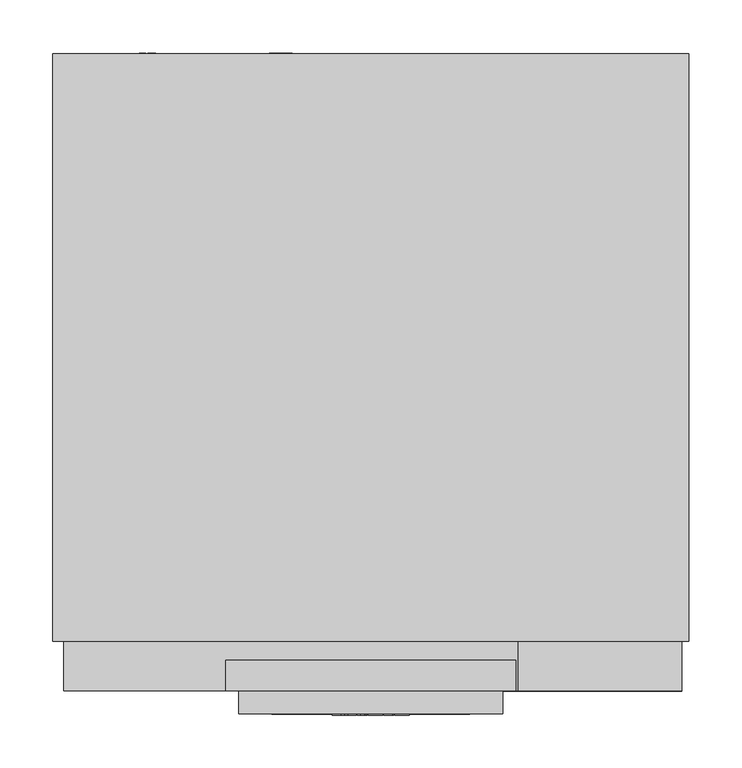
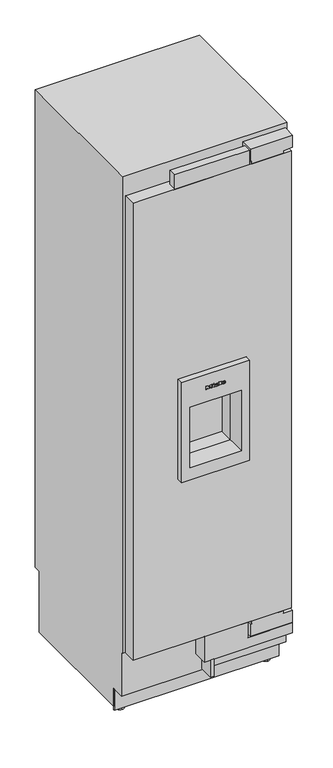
"""IFC4 building model written with IfcOpenShell, lengths in millimetres: proxy geometry, 11503540_USA_F2662Vi : 37266201_USA_11503540_F2662Vi."""

from ifc_helpers import new_model, si_unit, point, frame, frame_2d, origin, place, context, project, spatial, polyline, circle_curve, ellipse_curve, trimmed, segment, composite_curve, outline, extrude, faceted_brep, source, transform, mapped, element, save
from ifc_brep_helpers import plane_surface, cylinder_surface, revolved_surface, extruded_surface, advanced_brep


def specialty_equipment_8d51bce9(model_context):
    return source(origin(), model_context, "Body", "SolidModel", [
        extrude(outline(polyline([(-6.5, 54.0), (6.5, 54.0), (6.5, 0.0), (-6.5, 0.0), (-6.5, 54.0)])), frame((0.0, 0.0, 99.0), z_axis=(0.0, 0.0, 1.0), x_axis=(1.0, 0.0, 0.0)), (0.0, 0.0, 1.0), 67.0),
        faceted_brep([(125.0, -21.7, 1295.0), (-125.0, -21.7, 1295.0), (-125.0, -21.7, 908.0), (125.0, -21.7, 908.0), (94.0, -21.7, 1190.0), (94.0, -21.7, 956.0), (-94.0, -21.7, 956.0), (-94.0, -21.7, 1190.0), (125.0, 47.0, 1295.0), (125.0, 47.0, 908.0), (-125.0, 47.0, 908.0), (-125.0, 47.0, 1295.0), (94.0, 47.0, 1190.0), (-94.0, 47.0, 1190.0), (-94.0, 47.0, 956.0), (94.0, 47.0, 956.0), (-94.0, -11.7943775, 1190.0), (94.0, -11.7943775, 1190.0), (-94.0, -11.7943775, 956.0), (94.0, -11.7943775, 956.0)], [[[0, 1, 2, 3], [4, 5, 6, 7]], [[8, 9, 10, 11], [12, 13, 14, 15]], [[0, 3, 9, 8]], [[3, 2, 10, 9]], [[2, 1, 11, 10]], [[1, 0, 8, 11]], [[4, 7, 16, 13, 12, 17]], [[7, 6, 18, 14, 13, 16]], [[6, 5, 19, 15, 14, 18]], [[5, 4, 17, 12, 15, 19]]]),
        extrude(outline(polyline([(2036.0, 291.0), (2036.0, -291.0), (265.0, -291.0), (265.0, 291.0), (2036.0, 291.0)]), holes=[polyline([(1295.0, 125.0), (908.0, 125.0), (908.0, -125.0), (1295.0, -125.0), (1295.0, 125.0)])]), frame((0.0, 0.0, 0.0), z_axis=(0.0, 1.0, 0.0), x_axis=(0.0, 0.0, 1.0)), (0.0, 0.0, 1.0), 47.0),
        faceted_brep([(-158.0, 47.0, 863.0), (-158.0, 47.0, 1335.0), (-158.0, 239.0, 1335.0), (-158.0, 239.0, 987.0), (-158.0, 140.0, 863.0), (158.0, 47.0, 863.0), (158.0, 140.0, 863.0), (158.0, 239.0, 987.0), (158.0, 239.0, 1335.0), (158.0, 47.0, 1335.0), (94.0, 47.0, 1190.0), (94.0, 47.0, 956.0), (-94.0, 47.0, 956.0), (-94.0, 47.0, 1190.0), (94.0, 100.0, 1190.0), (-94.0, 100.0, 1190.0), (-94.0, 100.0, 956.0), (94.0, 100.0, 956.0)], [[[0, 1, 2, 3, 4]], [[5, 6, 7, 8, 9]], [[0, 4, 6, 5]], [[4, 3, 7, 6]], [[3, 2, 8, 7]], [[2, 1, 9, 8]], [[1, 0, 5, 9], [10, 11, 12, 13]], [[14, 15, 16, 17]], [[14, 17, 11, 10]], [[17, 16, 12, 11]], [[16, 15, 13, 12]], [[15, 14, 10, 13]]]),
        extrude(outline(polyline([(-137.5, 29.0), (137.5, 29.0), (137.5, 0.0), (-137.5, 0.0), (-137.5, 29.0)])), frame((0.0, 0.0, 2036.0), z_axis=(0.0, 0.0, 1.0), x_axis=(1.0, 0.0, 0.0)), (0.0, 0.0, 1.0), 56.0),
        advanced_brep(
        [(28.472, -22.7, 1241.344), (28.472, -22.7, 1242.556), (36.5, -22.7, 1242.556), (22.532, -22.7, 1242.556), (25.832, -22.7, 1238.5), (36.296, -22.7, 1241.344), (32.672, -22.7, 1241.344), (29.816, -22.7, 1240.0), (28.472, -22.7, 1244.092), (28.472, -22.7, 1245.4), (30.524, -22.7, 1245.4), (30.524, -22.7, 1244.092), (28.472, -21.7, 1241.344), (29.816, -21.7, 1240.0), (32.672, -21.7, 1241.344), (36.296, -21.7, 1241.344), (25.832, -21.7, 1238.5), (22.532, -21.7, 1242.556), (36.5, -21.7, 1242.556), (28.472, -21.7, 1242.556), (28.472, -21.7, 1244.092), (30.524, -21.7, 1244.092), (30.524, -21.7, 1245.4), (28.472, -21.7, 1245.4)],
        [
            (0, 1),
            (1, 2),
            (2, 3, ellipse_curve(frame((29.516, -22.7, 1242.556), z_axis=(0.0, -1.0, 0.0), x_axis=(-1.0, 0.0, 0.0)), 6.984, 5.772)),
            (3, 4, circle_curve(frame((27.1760655, -22.7, 1242.964), z_axis=(0.0, -1.0, 0.0), x_axis=(0.0, 0.0, -1.0)), 4.6619532)),
            (4, 5, circle_curve(frame((29.3761904, -22.7, 1246.132), z_axis=(0.0, -1.0, 0.0), x_axis=(0.0, 0.0, -1.0)), 8.4147911)),
            (5, 6),
            (6, 7, circle_curve(frame((30.4025882, -22.7, 1242.46), z_axis=(0.0, 1.0, 0.0), x_axis=(0.0, 0.0, -1.0)), 2.5289693)),
            (7, 0, circle_curve(frame((29.816, -22.7, 1241.344), z_axis=(0.0, 1.0, 0.0), x_axis=(0.0, 0.0, -1.0)), 1.344)),
            (8, 9),
            (9, 10, circle_curve(frame((29.498, -22.7, 1245.4), z_axis=(0.0, 1.0, 0.0), x_axis=(0.0, 0.0, -1.0)), 1.026)),
            (10, 11),
            (11, 8),
            (12, 13, circle_curve(frame((29.816, -21.7, 1241.344), z_axis=(0.0, -1.0, 0.0), x_axis=(0.0, 0.0, -1.0)), 1.344)),
            (13, 14, circle_curve(frame((30.4025882, -21.7, 1242.46), z_axis=(0.0, -1.0, 0.0), x_axis=(0.0, 0.0, -1.0)), 2.5289693)),
            (14, 15),
            (15, 16, circle_curve(frame((29.3761904, -21.7, 1246.132), z_axis=(0.0, 1.0, 0.0), x_axis=(0.0, 0.0, -1.0)), 8.4147911)),
            (16, 17, circle_curve(frame((27.1760655, -21.7, 1242.964), z_axis=(0.0, 1.0, 0.0), x_axis=(0.0, 0.0, -1.0)), 4.6619532)),
            (17, 18, ellipse_curve(frame((29.516, -21.7, 1242.556), z_axis=(0.0, 1.0, 0.0), x_axis=(-1.0, 0.0, 0.0)), 6.984, 5.772)),
            (18, 19),
            (19, 12),
            (20, 21),
            (21, 22),
            (22, 23, circle_curve(frame((29.498, -21.7, 1245.4), z_axis=(0.0, -1.0, 0.0), x_axis=(0.0, 0.0, -1.0)), 1.026)),
            (23, 20),
            (0, 12),
            (19, 1),
            (18, 2),
            (5, 15),
            (14, 6),
            (17, 3),
            (13, 7),
            (16, 4),
            (8, 20),
            (23, 9),
            (22, 10),
            (21, 11),
        ],
        [
            plane_surface(frame((28.472, -22.7, 1242.556), z_axis=(0.0, -1.0, 0.0), x_axis=(0.0, 0.0, 1.0))),
            plane_surface(frame((28.472, -21.7, 1242.556), z_axis=(0.0, 1.0, 0.0), x_axis=(0.0, 0.0, -1.0))),
            plane_surface(frame((28.472, -22.7, 1241.344), z_axis=(1.0, 0.0, 0.0), x_axis=(0.0, 1.0, 0.0))),
            plane_surface(frame((28.472, -22.7, 1242.556), z_axis=(0.0, 0.0, -1.0), x_axis=(0.0, 1.0, 0.0))),
            plane_surface(frame((36.296, -22.7, 1241.344), z_axis=(0.0, 0.0, 1.0), x_axis=(0.0, 1.0, 0.0))),
            extruded_surface(trimmed(ellipse_curve(frame((29.516, -20.7, 1242.556), z_axis=(0.0, -1.0, 0.0), x_axis=(-1.0, 0.0, 0.0)), 6.984, 5.772), [point((36.5, -20.7, 1242.556))], [point((22.532, -20.7, 1242.556))], True, "CARTESIAN"), (0.0, -1.0, 0.0), 1.0),
            revolved_surface(polyline([(30.4025882, -21.7, 1239.9310307), (30.4025882, -22.7, 1239.9310307)]), (30.4025882, -21.7, 1242.46), (0.0, 1.0, 0.0)),
            revolved_surface(polyline([(29.816, -21.7, 1240.0), (29.816, -22.7, 1240.0)]), (29.816, -21.7, 1241.344), (0.0, 1.0, 0.0)),
            cylinder_surface(frame((27.1760655, -21.7, 1242.964), z_axis=(0.0, -1.0, 0.0), x_axis=(0.0, 0.0, -1.0)), 4.6619532),
            cylinder_surface(frame((29.3761904, -21.7, 1246.132), z_axis=(0.0, -1.0, 0.0), x_axis=(0.0, 0.0, -1.0)), 8.4147911),
            plane_surface(frame((28.472, -22.7, 1244.092), z_axis=(1.0, 0.0, 0.0), x_axis=(0.0, 1.0, 0.0))),
            revolved_surface(polyline([(29.498, -21.7, 1244.374), (29.498, -22.7, 1244.374)]), (29.498, -21.7, 1245.4), (0.0, 1.0, 0.0)),
            plane_surface(frame((30.524, -22.7, 1245.4), z_axis=(-1.0, 0.0, 0.0), x_axis=(0.0, 1.0, 0.0))),
            plane_surface(frame((30.524, -22.7, 1244.092), z_axis=(0.0, 0.0, 1.0), x_axis=(0.0, 1.0, 0.0))),
        ],
        [
            (0, [[1, 2, 3, 4, 5, 6, 7, 8], [9, 10, 11, 12]]),
            (1, [[13, 14, 15, 16, 17, 18, 19, 20], [21, 22, 23, 24]]),
            (2, [[-1, 25, -20, 26]]),
            (3, [[-2, -26, -19, 27]]),
            (4, [[-6, 28, -15, 29]]),
            (5, [[-3, -27, -18, 30]]),
            (6, [[-7, -29, -14, 31]]),
            (7, [[-8, -31, -13, -25]]),
            (8, [[-4, -30, -17, 32]]),
            (9, [[-5, -32, -16, -28]]),
            (10, [[-9, 33, -24, 34]]),
            (11, [[-10, -34, -23, 35]]),
            (12, [[-11, -35, -22, 36]]),
            (13, [[-12, -36, -21, -33]]),
        ],
    ),
        advanced_brep(
        [(3.428, -22.7, 1241.344), (3.428, -22.7, 1242.556), (11.456, -22.7, 1242.556), (-2.512, -22.7, 1242.556), (0.788, -22.7, 1238.5), (11.252, -22.7, 1241.344), (7.628, -22.7, 1241.344), (4.772, -22.7, 1240.0), (3.428, -22.7, 1244.092), (3.428, -22.7, 1245.4), (5.48, -22.7, 1245.4), (5.48, -22.7, 1244.092), (3.428, -21.7, 1241.344), (4.772, -21.7, 1240.0), (7.628, -21.7, 1241.344), (11.252, -21.7, 1241.344), (0.788, -21.7, 1238.5), (-2.512, -21.7, 1242.556), (11.456, -21.7, 1242.556), (3.428, -21.7, 1242.556), (3.428, -21.7, 1244.092), (5.48, -21.7, 1244.092), (5.48, -21.7, 1245.4), (3.428, -21.7, 1245.4)],
        [
            (0, 1),
            (1, 2),
            (2, 3, ellipse_curve(frame((4.472, -22.7, 1242.556), z_axis=(0.0, -1.0, 0.0), x_axis=(-1.0, 0.0, 0.0)), 6.984, 5.772)),
            (3, 4, circle_curve(frame((2.1320655, -22.7, 1242.964), z_axis=(0.0, -1.0, 0.0), x_axis=(0.0, 0.0, -1.0)), 4.6619532)),
            (4, 5, circle_curve(frame((4.3321904, -22.7, 1246.132), z_axis=(0.0, -1.0, 0.0), x_axis=(0.0, 0.0, -1.0)), 8.4147911)),
            (5, 6),
            (6, 7, circle_curve(frame((5.3585882, -22.7, 1242.46), z_axis=(0.0, 1.0, 0.0), x_axis=(0.0, 0.0, -1.0)), 2.5289693)),
            (7, 0, circle_curve(frame((4.772, -22.7, 1241.344), z_axis=(0.0, 1.0, 0.0), x_axis=(0.0, 0.0, -1.0)), 1.344)),
            (8, 9),
            (9, 10, circle_curve(frame((4.454, -22.7, 1245.4), z_axis=(0.0, 1.0, 0.0), x_axis=(0.0, 0.0, -1.0)), 1.026)),
            (10, 11),
            (11, 8),
            (12, 13, circle_curve(frame((4.772, -21.7, 1241.344), z_axis=(0.0, -1.0, 0.0), x_axis=(0.0, 0.0, -1.0)), 1.344)),
            (13, 14, circle_curve(frame((5.3585882, -21.7, 1242.46), z_axis=(0.0, -1.0, 0.0), x_axis=(0.0, 0.0, -1.0)), 2.5289693)),
            (14, 15),
            (15, 16, circle_curve(frame((4.3321904, -21.7, 1246.132), z_axis=(0.0, 1.0, 0.0), x_axis=(0.0, 0.0, -1.0)), 8.4147911)),
            (16, 17, circle_curve(frame((2.1320655, -21.7, 1242.964), z_axis=(0.0, 1.0, 0.0), x_axis=(0.0, 0.0, -1.0)), 4.6619532)),
            (17, 18, ellipse_curve(frame((4.472, -21.7, 1242.556), z_axis=(0.0, 1.0, 0.0), x_axis=(-1.0, 0.0, 0.0)), 6.984, 5.772)),
            (18, 19),
            (19, 12),
            (20, 21),
            (21, 22),
            (22, 23, circle_curve(frame((4.454, -21.7, 1245.4), z_axis=(0.0, -1.0, 0.0), x_axis=(0.0, 0.0, -1.0)), 1.026)),
            (23, 20),
            (0, 12),
            (19, 1),
            (18, 2),
            (5, 15),
            (14, 6),
            (17, 3),
            (13, 7),
            (16, 4),
            (8, 20),
            (23, 9),
            (22, 10),
            (21, 11),
        ],
        [
            plane_surface(frame((3.428, -22.7, 1242.556), z_axis=(0.0, -1.0, 0.0), x_axis=(0.0, 0.0, 1.0))),
            plane_surface(frame((3.428, -21.7, 1242.556), z_axis=(0.0, 1.0, 0.0), x_axis=(0.0, 0.0, -1.0))),
            plane_surface(frame((3.428, -22.7, 1241.344), z_axis=(1.0, 0.0, 0.0), x_axis=(0.0, 1.0, 0.0))),
            plane_surface(frame((3.428, -22.7, 1242.556), z_axis=(0.0, 0.0, -1.0), x_axis=(0.0, 1.0, 0.0))),
            plane_surface(frame((11.252, -22.7, 1241.344), z_axis=(0.0, 0.0, 1.0), x_axis=(0.0, 1.0, 0.0))),
            extruded_surface(trimmed(ellipse_curve(frame((4.472, -20.7, 1242.556), z_axis=(0.0, -1.0, 0.0), x_axis=(-1.0, 0.0, 0.0)), 6.984, 5.772), [point((11.456, -20.7, 1242.556))], [point((-2.512, -20.7, 1242.556))], True, "CARTESIAN"), (0.0, -1.0, 0.0), 1.0),
            revolved_surface(polyline([(5.3585882, -21.7, 1239.9310307), (5.3585882, -22.7, 1239.9310307)]), (5.3585882, -21.7, 1242.46), (0.0, 1.0, 0.0)),
            revolved_surface(polyline([(4.772, -21.7, 1240.0), (4.772, -22.7, 1240.0)]), (4.772, -21.7, 1241.344), (0.0, 1.0, 0.0)),
            cylinder_surface(frame((2.1320655, -21.7, 1242.964), z_axis=(0.0, -1.0, 0.0), x_axis=(0.0, 0.0, -1.0)), 4.6619532),
            cylinder_surface(frame((4.3321904, -21.7, 1246.132), z_axis=(0.0, -1.0, 0.0), x_axis=(0.0, 0.0, -1.0)), 8.4147911),
            plane_surface(frame((3.428, -22.7, 1244.092), z_axis=(1.0, 0.0, 0.0), x_axis=(0.0, 1.0, 0.0))),
            revolved_surface(polyline([(4.454, -21.7, 1244.374), (4.454, -22.7, 1244.374)]), (4.454, -21.7, 1245.4), (0.0, 1.0, 0.0)),
            plane_surface(frame((5.48, -22.7, 1245.4), z_axis=(-1.0, 0.0, 0.0), x_axis=(0.0, 1.0, 0.0))),
            plane_surface(frame((5.48, -22.7, 1244.092), z_axis=(0.0, 0.0, 1.0), x_axis=(0.0, 1.0, 0.0))),
        ],
        [
            (0, [[1, 2, 3, 4, 5, 6, 7, 8], [9, 10, 11, 12]]),
            (1, [[13, 14, 15, 16, 17, 18, 19, 20], [21, 22, 23, 24]]),
            (2, [[-1, 25, -20, 26]]),
            (3, [[-2, -26, -19, 27]]),
            (4, [[-6, 28, -15, 29]]),
            (5, [[-3, -27, -18, 30]]),
            (6, [[-7, -29, -14, 31]]),
            (7, [[-8, -31, -13, -25]]),
            (8, [[-4, -30, -17, 32]]),
            (9, [[-5, -32, -16, -28]]),
            (10, [[-9, 33, -24, 34]]),
            (11, [[-10, -34, -23, 35]]),
            (12, [[-11, -35, -22, 36]]),
            (13, [[-12, -36, -21, -33]]),
        ],
    ),
        extrude(outline(polyline([(1249.792, -9.688), (1247.848, -8.776), (1249.744, -4.708), (1251.688, -5.608), (1249.792, -9.688)])), frame((0.0, -22.7, 0.0), z_axis=(0.0, 1.0, 0.0), x_axis=(0.0, 0.0, 1.0)), (0.0, 0.0, 1.0), 1.0),
        extrude(outline(polyline([(1247.584, -12.652), (1245.436, -12.652), (1245.436, -11.224), (1240.516, -11.224), (1240.516, -12.652), (1238.5, -12.652), (1238.5, -3.184), (1240.516, -3.184), (1240.516, -4.576), (1247.584, -4.576), (1247.584, -12.652)])), frame((0.0, -22.7, 0.0), z_axis=(0.0, 1.0, 0.0), x_axis=(0.0, 0.0, 1.0)), (0.0, 0.0, 1.0), 1.0),
        extrude(outline(polyline([(1248.544, 12.128), (1248.544, 13.568), (1240.516, 13.568), (1240.516, 12.128), (1238.5, 12.128), (1238.5, 21.86), (1240.516, 21.86), (1240.516, 20.384), (1250.5, 20.384), (1250.5, 12.128), (1248.544, 12.128)])), frame((0.0, -22.7, 0.0), z_axis=(0.0, 1.0, 0.0), x_axis=(0.0, 0.0, 1.0)), (0.0, 0.0, 1.0), 1.0),
        extrude(outline(polyline([(1248.544, -36.568), (1248.544, -35.116), (1240.516, -35.116), (1240.516, -36.568), (1238.5, -36.568), (1238.5, -31.288), (1240.516, -31.288), (1240.516, -32.728), (1245.5951247, -32.728), (1238.5, -27.364), (1245.8152223, -21.976), (1240.516, -21.976), (1240.516, -23.452), (1238.5, -23.452), (1238.5, -13.876), (1240.516, -13.876), (1240.516, -15.4), (1248.544, -15.4), (1248.544, -13.876), (1250.5, -13.876), (1250.5, -21.184), (1246.0, -24.688), (1250.5, -28.204), (1250.5, -36.568), (1248.544, -36.568)])), frame((0.0, -22.7, 0.0), z_axis=(0.0, 1.0, 0.0), x_axis=(0.0, 0.0, 1.0)), (0.0, 0.0, 1.0), 1.0),
        extrude(outline(polyline([(519.0, 1998.0), (519.0, 1799.0), (447.0526316, 1799.0), (422.0, 1867.0), (201.7448904, 1867.0), (157.0, 1939.0), (87.0, 1949.0), (87.0, 1998.0), (519.0, 1998.0)])), frame((-255.5, 0.0, 0.0), z_axis=(1.0, 0.0, 0.0), x_axis=(0.0, 1.0, 0.0)), (0.0, 0.0, 1.0), 511.0),
        extrude(outline(polyline([(196.9886114, 1875.0), (195.809433, 1875.0), (158.6921935, 1934.4), (159.8713719, 1934.4), (196.9886114, 1875.0)])), frame((-69.0, 0.0, 0.0), z_axis=(1.0, 0.0, 0.0), x_axis=(0.0, 1.0, 0.0)), (0.0, 0.0, 1.0), 138.0),
        extrude(outline(polyline([(46.0510837, -84.101717), (37.4134902, -86.1745179), (46.0453554, -88.6868463), (46.0453554, -90.5601414), (37.4089549, -93.0799633), (46.0493903, -95.1581876), (46.0493903, -96.4649805), (36.0005458, -93.7156324), (36.0005458, -92.372208), (44.8261022, -89.6342221), (35.9987467, -87.0620509), (35.9987287, -85.5451466), (46.0510837, -82.800191), (46.0510837, -84.101717)])), frame((0.0, 604.0, 0.0), z_axis=(0.0, 1.0, 0.0), x_axis=(0.0, 0.0, 1.0)), (0.0, 0.0, 1.0), 1.0),
        extrude(outline(polyline([(46.0485238, -75.7401503), (41.1363122, -75.7401503), (46.0468162, -80.884602), (46.0468162, -82.6328316), (41.9156889, -78.3260313), (36.000035, -82.8032231), (36.000035, -81.2795519), (41.0742849, -77.4391666), (39.4525334, -75.7395503), (35.9999292, -75.7395503), (35.9999292, -74.4795491), (46.0485238, -74.4795491), (46.0485238, -75.7401503)])), frame((0.0, 604.0, 0.0), z_axis=(0.0, 1.0, 0.0), x_axis=(0.0, 0.0, 1.0)), (0.0, 0.0, 1.0), 1.0),
        extrude(outline(composite_curve([segment(trimmed(circle_curve(frame_2d((41.0, -85.0)), 7.5), [point((33.5, -85.0))], [point((48.5, -85.0))], False, "CARTESIAN"), True, "CONTINUOUS"), segment(trimmed(circle_curve(frame_2d((41.0, -85.0)), 7.5), [point((48.5, -85.0))], [point((33.5, -85.0))], False, "CARTESIAN"), True, "CONTINUOUS")], self_intersect=False)), frame((0.0, 577.0, 0.0), z_axis=(0.0, 1.0, 0.0), x_axis=(0.0, 0.0, 1.0)), (0.0, 0.0, 1.0), 27.0),
        extrude(outline(polyline([(2095.0, 295.0), (2095.0, 140.0), (2047.0, 140.0), (2047.0, 146.0), (2036.5, 146.0), (2036.5, 261.0), (2047.0, 261.0), (2047.0, 295.0), (2095.0, 295.0)])), frame((0.0, 0.0, 0.0), z_axis=(0.0, 1.0, 0.0), x_axis=(0.0, 0.0, 1.0)), (0.0, 0.0, 1.0), 47.0),
        extrude(outline(polyline([(254.0, 140.0), (206.0, 140.0), (206.0, 295.0), (254.0, 295.0), (254.0, 261.0), (264.0, 261.0), (264.0, 146.0), (254.0, 146.0), (254.0, 140.0)])), frame((0.0, 0.0, 0.0), z_axis=(0.0, 1.0, 0.0), x_axis=(0.0, 0.0, 1.0)), (0.0, 0.0, 1.0), 54.0),
        extrude(outline(polyline([(166.0, -28.5), (166.0, 295.0), (205.0, 295.0), (205.0, 131.5), (265.0, 131.5), (265.0, -28.5), (166.0, -28.5)])), frame((0.0, 0.0, 0.0), z_axis=(0.0, 1.0, 0.0), x_axis=(0.0, 0.0, 1.0)), (0.0, 0.0, 1.0), 54.0),
        extrude(outline(polyline([(99.0373308, -211.2645771), (97.7615342, -211.2645771), (97.7615342, -205.3195541), (94.7968516, -205.3195541), (94.7968516, -210.969579), (93.5246295, -210.969579), (93.5246295, -205.3415693), (90.2570046, -205.3415693), (90.2570046, -211.4619689), (88.9546219, -211.4619689), (88.9546219, -204.0443524), (99.0373308, -204.0443524), (99.0373308, -211.2645771)])), frame((0.0, 604.0, 0.0), z_axis=(0.0, 1.0, 0.0), x_axis=(0.0, 0.0, 1.0)), (0.0, 0.0, 1.0), 1.0),
        extrude(outline(polyline([(99.0458, -214.5619704), (90.2663944, -214.5619704), (90.2663944, -219.6145879), (89.0134802, -219.6145879), (89.0134802, -213.3423809), (99.0458, -213.3423809), (99.0458, -214.5619704)])), frame((0.0, 604.0, 0.0), z_axis=(0.0, 1.0, 0.0), x_axis=(0.0, 0.0, 1.0)), (0.0, 0.0, 1.0), 1.0),
        extrude(outline(composite_curve([segment(trimmed(circle_curve(frame_2d((94.0, -211.5)), 7.5), [point((86.5, -211.5))], [point((101.5, -211.5))], False, "CARTESIAN"), True, "CONTINUOUS"), segment(trimmed(circle_curve(frame_2d((94.0, -211.5)), 7.5), [point((101.5, -211.5))], [point((86.5, -211.5))], False, "CARTESIAN"), True, "CONTINUOUS")], self_intersect=False)), frame((0.0, 577.0, 0.0), z_axis=(0.0, 1.0, 0.0), x_axis=(0.0, 0.0, 1.0)), (0.0, 0.0, 1.0), 27.0),
        extrude(outline(polyline([(-301.5, 104.0), (301.5, 104.0), (301.5, 99.0), (-301.5, 99.0), (-301.5, 104.0)])), frame((0.0, 0.0, 14.0), z_axis=(0.0, 0.0, 1.0), x_axis=(1.0, 0.0, 0.0)), (0.0, 0.0, 1.0), 83.0),
        advanced_brep(
        [(-267.5, 139.0, 0.0), (-267.5, 109.0, 0.0), (-267.5, 139.0, 7.0), (-267.5, 109.0, 7.0), (-267.5, 128.7, 7.0), (-267.5, 119.3, 7.0), (-267.5, 128.7, 28.0), (-267.5, 119.3, 28.0)],
        [
            (0, 1, circle_curve(frame((-267.5, 124.0, 0.0), z_axis=(0.0, 0.0, -1.0), x_axis=(1.0, 0.0, 0.0)), 15.0)),
            (1, 0, circle_curve(frame((-267.5, 124.0, 0.0), z_axis=(0.0, 0.0, -1.0), x_axis=(1.0, 0.0, 0.0)), 15.0)),
            (2, 3, circle_curve(frame((-267.5, 124.0, 7.0), z_axis=(0.0, 0.0, 1.0), x_axis=(1.0, 0.0, 0.0)), 15.0)),
            (3, 2, circle_curve(frame((-267.5, 124.0, 7.0), z_axis=(0.0, 0.0, 1.0), x_axis=(1.0, 0.0, 0.0)), 15.0)),
            (4, 5, circle_curve(frame((-267.5, 124.0, 7.0), z_axis=(0.0, 0.0, -1.0), x_axis=(0.0, -1.0, 0.0)), 4.7)),
            (5, 4, circle_curve(frame((-267.5, 124.0, 7.0), z_axis=(0.0, 0.0, -1.0), x_axis=(0.0, -1.0, 0.0)), 4.7)),
            (0, 2),
            (3, 1),
            (6, 7, circle_curve(frame((-267.5, 124.0, 28.0), z_axis=(0.0, 0.0, 1.0), x_axis=(0.0, -1.0, 0.0)), 4.7)),
            (7, 6, circle_curve(frame((-267.5, 124.0, 28.0), z_axis=(0.0, 0.0, 1.0), x_axis=(0.0, -1.0, 0.0)), 4.7)),
            (7, 5),
            (4, 6),
        ],
        [
            plane_surface(frame((-252.5, 124.0, 0.0), z_axis=(0.0, 0.0, -1.0), x_axis=(0.0, -1.0, 0.0))),
            plane_surface(frame((-252.5, 124.0, 7.0), z_axis=(0.0, 0.0, 1.0), x_axis=(0.0, 1.0, 0.0))),
            cylinder_surface(frame((-267.5, 124.0, 7.0), z_axis=(0.0, 0.0, -1.0), x_axis=(1.0, 0.0, 0.0)), 15.0),
            plane_surface(frame((-267.5, 119.3, 28.0), z_axis=(0.0, 0.0, 1.0), x_axis=(1.0, 0.0, 0.0))),
            cylinder_surface(frame((-267.5, 124.0, 28.0), z_axis=(0.0, 0.0, -1.0), x_axis=(0.0, -1.0, 0.0)), 4.7),
        ],
        [
            (0, [[1, 2]]),
            (1, [[3, 4], [5, 6]]),
            (2, [[-1, 7, -4, 8]]),
            (2, [[-2, -8, -3, -7]]),
            (3, [[9, 10]]),
            (4, [[-10, 11, -5, 12]]),
            (4, [[-9, -12, -6, -11]]),
        ],
    ),
        advanced_brep(
        [(267.5, 139.0, 0.0), (267.5, 109.0, 0.0), (267.5, 139.0, 7.0), (267.5, 109.0, 7.0), (267.5, 128.7, 7.0), (267.5, 119.3, 7.0), (267.5, 128.7, 28.0), (267.5, 119.3, 28.0)],
        [
            (0, 1, circle_curve(frame((267.5, 124.0, 0.0), z_axis=(0.0, 0.0, -1.0), x_axis=(1.0, 0.0, 0.0)), 15.0)),
            (1, 0, circle_curve(frame((267.5, 124.0, 0.0), z_axis=(0.0, 0.0, -1.0), x_axis=(1.0, 0.0, 0.0)), 15.0)),
            (2, 3, circle_curve(frame((267.5, 124.0, 7.0), z_axis=(0.0, 0.0, 1.0), x_axis=(1.0, 0.0, 0.0)), 15.0)),
            (3, 2, circle_curve(frame((267.5, 124.0, 7.0), z_axis=(0.0, 0.0, 1.0), x_axis=(1.0, 0.0, 0.0)), 15.0)),
            (4, 5, circle_curve(frame((267.5, 124.0, 7.0), z_axis=(0.0, 0.0, -1.0), x_axis=(0.0, -1.0, 0.0)), 4.7)),
            (5, 4, circle_curve(frame((267.5, 124.0, 7.0), z_axis=(0.0, 0.0, -1.0), x_axis=(0.0, -1.0, 0.0)), 4.7)),
            (0, 2),
            (3, 1),
            (6, 7, circle_curve(frame((267.5, 124.0, 28.0), z_axis=(0.0, 0.0, 1.0), x_axis=(0.0, -1.0, 0.0)), 4.7)),
            (7, 6, circle_curve(frame((267.5, 124.0, 28.0), z_axis=(0.0, 0.0, 1.0), x_axis=(0.0, -1.0, 0.0)), 4.7)),
            (7, 5),
            (4, 6),
        ],
        [
            plane_surface(frame((-252.5, 124.0, 0.0), z_axis=(0.0, 0.0, -1.0), x_axis=(0.0, -1.0, 0.0))),
            plane_surface(frame((-252.5, 124.0, 7.0), z_axis=(0.0, 0.0, 1.0), x_axis=(0.0, 1.0, 0.0))),
            cylinder_surface(frame((267.5, 124.0, 7.0), z_axis=(0.0, 0.0, -1.0), x_axis=(1.0, 0.0, 0.0)), 15.0),
            plane_surface(frame((-267.5, 119.3, 28.0), z_axis=(0.0, 0.0, 1.0), x_axis=(1.0, 0.0, 0.0))),
            cylinder_surface(frame((267.5, 124.0, 28.0), z_axis=(0.0, 0.0, -1.0), x_axis=(0.0, -1.0, 0.0)), 4.7),
        ],
        [
            (0, [[1, 2]]),
            (1, [[3, 4], [5, 6]]),
            (2, [[-1, 7, -4, 8]]),
            (2, [[-2, -8, -3, -7]]),
            (3, [[9, 10]]),
            (4, [[-10, 11, -5, 12]]),
            (4, [[-9, -12, -6, -11]]),
        ],
    ),
        advanced_brep(
        [(301.5, 47.0, 2114.0), (301.5, 47.0, 267.0), (301.5, 54.0, 267.0), (301.5, 54.0, 97.0), (301.5, 104.0, 97.0), (301.5, 104.0, 28.0), (301.5, 577.0, 28.0), (301.5, 577.0, 263.0), (301.5, 604.0, 263.0), (301.5, 604.0, 2114.0), (-301.5, 47.0, 2114.0), (-301.5, 604.0, 2114.0), (-301.5, 604.0, 263.0), (-301.5, 577.0, 263.0), (-301.5, 577.0, 28.0), (-301.5, 104.0, 28.0), (-301.5, 104.0, 97.0), (-301.5, 54.0, 97.0), (-301.5, 54.0, 267.0), (-301.5, 47.0, 267.0), (241.5, 577.0, 28.0), (241.5, 577.0, 14.0), (-241.5, 577.0, 14.0), (-241.5, 577.0, 28.0), (241.5, 104.0, 14.0), (-241.5, 104.0, 14.0), (-241.5, 104.0, 28.0), (241.5, 104.0, 28.0), (255.5, 47.0, 1998.0), (255.5, 47.0, 343.0), (-255.5, 47.0, 343.0), (-255.5, 47.0, 1998.0), (255.5, 519.0, 1998.0), (-255.5, 519.0, 1998.0), (-255.5, 519.0, 343.0), (255.5, 519.0, 343.0), (-260.0, 202.8193473, 28.0), (-279.0, 202.8193473, 28.0), (-279.0, 153.1806527, 28.0), (-260.0, 153.1806527, 28.0), (-279.5, 525.8193473, 28.0), (-279.5, 476.1806527, 28.0), (-263.5, 476.1806527, 28.0), (-263.5, 525.8193473, 28.0), (279.0, 153.1806527, 28.0), (279.0, 202.8193473, 28.0), (260.0, 202.8193473, 28.0), (260.0, 153.1806527, 28.0), (263.5, 525.8193473, 28.0), (263.5, 476.1806527, 28.0), (279.5, 476.1806527, 28.0), (279.5, 525.8193473, 28.0), (-260.0, 203.0, 25.0), (-260.0, 153.0, 25.0), (-279.0, 153.0, 25.0), (-279.0, 203.0, 25.0), (-260.0, 178.0, 25.0), (-279.0, 178.0, 25.0), (279.0, 178.0, 25.0), (279.0, 153.0, 25.0), (279.0, 203.0, 25.0), (260.0, 203.0, 25.0), (260.0, 153.0, 25.0), (260.0, 178.0, 25.0), (-279.5, 526.0, 25.0), (-279.5, 476.0, 25.0), (-279.5, 501.0, 25.0), (-263.5, 526.0, 25.0), (-263.5, 476.0, 25.0), (-263.5, 501.0, 25.0), (263.5, 526.0, 25.0), (263.5, 476.0, 25.0), (263.5, 501.0, 25.0), (279.5, 526.0, 25.0), (279.5, 476.0, 25.0), (279.5, 501.0, 25.0)],
        [
            (0, 1),
            (1, 2),
            (2, 3),
            (3, 4),
            (4, 5),
            (5, 6),
            (6, 7),
            (7, 8),
            (8, 9),
            (9, 0),
            (10, 11),
            (11, 12),
            (12, 13),
            (13, 14),
            (14, 15),
            (15, 16),
            (16, 17),
            (17, 18),
            (18, 19),
            (19, 10),
            (9, 11),
            (10, 0),
            (8, 12),
            (7, 13),
            (6, 20),
            (20, 21),
            (21, 22),
            (22, 23),
            (23, 14),
            (21, 24),
            (24, 25),
            (25, 22),
            (4, 16),
            (15, 26),
            (26, 25),
            (24, 27),
            (27, 5),
            (3, 17),
            (2, 18),
            (1, 19),
            (28, 29),
            (29, 30),
            (30, 31),
            (31, 28),
            (32, 33),
            (33, 34),
            (34, 35),
            (35, 32),
            (35, 29),
            (28, 32),
            (34, 30),
            (33, 31),
            (23, 26),
            (36, 37),
            (37, 38),
            (38, 39),
            (39, 36),
            (40, 41),
            (41, 42),
            (42, 43),
            (43, 40),
            (27, 20),
            (44, 45),
            (45, 46),
            (46, 47),
            (47, 44),
            (48, 49),
            (49, 50),
            (50, 51),
            (51, 48),
            (52, 53, circle_curve(frame((-260.0, 178.0, 25.0), z_axis=(-1.0, 0.0, 0.0), x_axis=(0.0, -1.0, 0.0)), 25.0)),
            (53, 54),
            (54, 55, circle_curve(frame((-279.0, 178.0, 25.0), z_axis=(1.0, 0.0, 0.0), x_axis=(0.0, -1.0, 0.0)), 25.0)),
            (55, 52),
            (53, 39, circle_curve(frame((-260.0, 178.0, 25.0), z_axis=(-1.0, 0.0, 0.0), x_axis=(0.0, -1.0, 0.0)), 25.0)),
            (38, 54, circle_curve(frame((-279.0, 178.0, 25.0), z_axis=(1.0, 0.0, 0.0), x_axis=(0.0, -1.0, 0.0)), 25.0)),
            (55, 37, circle_curve(frame((-279.0, 178.0, 25.0), z_axis=(1.0, 0.0, 0.0), x_axis=(0.0, -1.0, 0.0)), 25.0)),
            (36, 52, circle_curve(frame((-260.0, 178.0, 25.0), z_axis=(-1.0, 0.0, 0.0), x_axis=(0.0, -1.0, 0.0)), 25.0)),
            (52, 56),
            (56, 53),
            (54, 57),
            (57, 55),
            (58, 59),
            (59, 60, circle_curve(frame((279.0, 178.0, 25.0), z_axis=(1.0, 0.0, 0.0), x_axis=(0.0, -1.0, 0.0)), 25.0)),
            (60, 58),
            (60, 45, circle_curve(frame((279.0, 178.0, 25.0), z_axis=(1.0, 0.0, 0.0), x_axis=(0.0, -1.0, 0.0)), 25.0)),
            (44, 59, circle_curve(frame((279.0, 178.0, 25.0), z_axis=(1.0, 0.0, 0.0), x_axis=(0.0, -1.0, 0.0)), 25.0)),
            (61, 62, circle_curve(frame((260.0, 178.0, 25.0), z_axis=(-1.0, 0.0, 0.0), x_axis=(0.0, -1.0, 0.0)), 25.0)),
            (62, 63),
            (63, 61),
            (62, 47, circle_curve(frame((260.0, 178.0, 25.0), z_axis=(-1.0, 0.0, 0.0), x_axis=(0.0, -1.0, 0.0)), 25.0)),
            (46, 61, circle_curve(frame((260.0, 178.0, 25.0), z_axis=(-1.0, 0.0, 0.0), x_axis=(0.0, -1.0, 0.0)), 25.0)),
            (64, 65, circle_curve(frame((-279.5, 501.0, 25.0), z_axis=(-1.0, 0.0, 0.0), x_axis=(0.0, -1.0, 0.0)), 25.0)),
            (65, 66),
            (66, 64),
            (65, 41, circle_curve(frame((-279.5, 501.0, 25.0), z_axis=(-1.0, 0.0, 0.0), x_axis=(0.0, -1.0, 0.0)), 25.0)),
            (40, 64, circle_curve(frame((-279.5, 501.0, 25.0), z_axis=(-1.0, 0.0, 0.0), x_axis=(0.0, -1.0, 0.0)), 25.0)),
            (64, 67),
            (67, 68, circle_curve(frame((-263.5, 501.0, 25.0), z_axis=(-1.0, 0.0, 0.0), x_axis=(0.0, -1.0, 0.0)), 25.0)),
            (68, 65),
            (43, 67, circle_curve(frame((-263.5, 501.0, 25.0), z_axis=(-1.0, 0.0, 0.0), x_axis=(0.0, -1.0, 0.0)), 25.0)),
            (68, 42, circle_curve(frame((-263.5, 501.0, 25.0), z_axis=(-1.0, 0.0, 0.0), x_axis=(0.0, -1.0, 0.0)), 25.0)),
            (67, 69),
            (69, 68),
            (70, 71, circle_curve(frame((263.5, 501.0, 25.0), z_axis=(-1.0, 0.0, 0.0), x_axis=(0.0, -1.0, 0.0)), 25.0)),
            (71, 72),
            (72, 70),
            (71, 49, circle_curve(frame((263.5, 501.0, 25.0), z_axis=(-1.0, 0.0, 0.0), x_axis=(0.0, -1.0, 0.0)), 25.0)),
            (48, 70, circle_curve(frame((263.5, 501.0, 25.0), z_axis=(-1.0, 0.0, 0.0), x_axis=(0.0, -1.0, 0.0)), 25.0)),
            (70, 73),
            (73, 74, circle_curve(frame((279.5, 501.0, 25.0), z_axis=(-1.0, 0.0, 0.0), x_axis=(0.0, -1.0, 0.0)), 25.0)),
            (74, 71),
            (51, 73, circle_curve(frame((279.5, 501.0, 25.0), z_axis=(-1.0, 0.0, 0.0), x_axis=(0.0, -1.0, 0.0)), 25.0)),
            (74, 50, circle_curve(frame((279.5, 501.0, 25.0), z_axis=(-1.0, 0.0, 0.0), x_axis=(0.0, -1.0, 0.0)), 25.0)),
            (73, 75),
            (75, 74),
            (59, 62),
            (61, 60),
        ],
        [
            plane_surface(frame((301.5, 604.0, 2114.0), z_axis=(1.0, 0.0, 0.0), x_axis=(0.0, -1.0, 0.0))),
            plane_surface(frame((-301.5, 604.0, 2114.0), z_axis=(-1.0, 0.0, 0.0), x_axis=(0.0, 1.0, 0.0))),
            plane_surface(frame((-301.5, 47.0, 2114.0), z_axis=(0.0, 0.0, 1.0), x_axis=(1.0, 0.0, 0.0))),
            plane_surface(frame((-301.5, 604.0, 2114.0), z_axis=(0.0, 1.0, 0.0), x_axis=(1.0, 0.0, 0.0))),
            plane_surface(frame((-301.5, 604.0, 263.0), z_axis=(0.0, 0.0, -1.0), x_axis=(1.0, 0.0, 0.0))),
            plane_surface(frame((-301.5, 577.0, 263.0), z_axis=(0.0, 1.0, 0.0), x_axis=(1.0, 0.0, 0.0))),
            plane_surface(frame((-301.5, 577.0, 14.0), z_axis=(0.0, 0.0, -1.0), x_axis=(1.0, 0.0, 0.0))),
            plane_surface(frame((-301.5, 104.0, 14.0), z_axis=(0.0, -1.0, 0.0), x_axis=(1.0, 0.0, 0.0))),
            plane_surface(frame((-301.5, 104.0, 97.0), z_axis=(0.0, 0.0, -1.0), x_axis=(1.0, 0.0, 0.0))),
            plane_surface(frame((-301.5, 54.0, 97.0), z_axis=(0.0, -1.0, 0.0), x_axis=(1.0, 0.0, 0.0))),
            plane_surface(frame((-301.5, 54.0, 267.0), z_axis=(0.0, 0.0, -1.0), x_axis=(1.0, 0.0, 0.0))),
            plane_surface(frame((-301.5, 47.0, 267.0), z_axis=(0.0, -1.0, 0.0), x_axis=(1.0, 0.0, 0.0))),
            plane_surface(frame((255.5, 519.0, 1998.0), z_axis=(0.0, -1.0, 0.0), x_axis=(0.0, 0.0, -1.0))),
            plane_surface(frame((255.5, 519.0, 1998.0), z_axis=(-1.0, 0.0, 0.0), x_axis=(0.0, -1.0, 0.0))),
            plane_surface(frame((255.5, 519.0, 343.0), z_axis=(0.0, 0.0, 1.0), x_axis=(0.0, -1.0, 0.0))),
            plane_surface(frame((-255.5, 519.0, 343.0), z_axis=(1.0, 0.0, 0.0), x_axis=(0.0, -1.0, 0.0))),
            plane_surface(frame((-255.5, 519.0, 1998.0), z_axis=(0.0, 0.0, -1.0), x_axis=(0.0, -1.0, 0.0))),
            plane_surface(frame((-301.5, 604.0, 28.0), z_axis=(0.0, 0.0, -1.0), x_axis=(-1.0, 0.0, 0.0))),
            plane_surface(frame((-241.5, 104.0, 28.0), z_axis=(-1.0, 0.0, 0.0), x_axis=(0.0, 0.0, -1.0))),
            plane_surface(frame((241.5, 604.0, 28.0), z_axis=(1.0, 0.0, 0.0), x_axis=(0.0, 0.0, -1.0))),
            cylinder_surface(frame((-394.1988927, 178.0, 25.0), z_axis=(1.0, 0.0, 0.0), x_axis=(0.0, -1.0, 0.0)), 25.0),
            plane_surface(frame((-260.0, 178.0, 25.0), z_axis=(1.0, 0.0, 0.0), x_axis=(0.0, -1.0, 0.0))),
            plane_surface(frame((-279.0, 178.0, 25.0), z_axis=(-1.0, 0.0, 0.0), x_axis=(0.0, -1.0, 0.0))),
            plane_surface(frame((279.0, 178.0, 25.0), z_axis=(1.0, 0.0, 0.0), x_axis=(0.0, -1.0, 0.0))),
            plane_surface(frame((260.0, 178.0, 25.0), z_axis=(-1.0, 0.0, 0.0), x_axis=(0.0, -1.0, 0.0))),
            plane_surface(frame((-279.5, 501.0, 25.0), z_axis=(-1.0, 0.0, 0.0), x_axis=(0.0, -1.0, 0.0))),
            cylinder_surface(frame((-394.1988927, 501.0, 25.0), z_axis=(1.0, 0.0, 0.0), x_axis=(0.0, -1.0, 0.0)), 25.0),
            plane_surface(frame((-263.5, 501.0, 25.0), z_axis=(1.0, 0.0, 0.0), x_axis=(0.0, -1.0, 0.0))),
            plane_surface(frame((263.5, 501.0, 25.0), z_axis=(-1.0, 0.0, 0.0), x_axis=(0.0, -1.0, 0.0))),
            plane_surface(frame((279.5, 501.0, 25.0), z_axis=(1.0, 0.0, 0.0), x_axis=(0.0, -1.0, 0.0))),
        ],
        [
            (0, [[1, 2, 3, 4, 5, 6, 7, 8, 9, 10]]),
            (1, [[11, 12, 13, 14, 15, 16, 17, 18, 19, 20]]),
            (2, [[-10, 21, -11, 22]]),
            (3, [[-9, 23, -12, -21]]),
            (4, [[-8, 24, -13, -23]]),
            (5, [[-24, -7, 25, 26, 27, 28, 29, -14]]),
            (6, [[-27, 30, 31, 32]]),
            (7, [[33, -16, 34, 35, -31, 36, 37, -5]]),
            (8, [[-4, 38, -17, -33]]),
            (9, [[-3, 39, -18, -38]]),
            (10, [[-2, 40, -19, -39]]),
            (11, [[-1, -22, -20, -40], [41, 42, 43, 44]]),
            (12, [[45, 46, 47, 48]]),
            (13, [[-48, 49, -41, 50]]),
            (14, [[-47, 51, -42, -49]]),
            (15, [[-46, 52, -43, -51]]),
            (16, [[-45, -50, -44, -52]]),
            (17, [[53, -34, -15, -29], [54, 55, 56, 57], [58, 59, 60, 61]]),
            (17, [[62, -25, -6, -37], [63, 64, 65, 66], [67, 68, 69, 70]]),
            (18, [[-53, -28, -32, -35]]),
            (19, [[-62, -36, -30, -26]]),
            (20, [[71, 72, 73, 74]]),
            (20, [[-72, 75, -56, 76]]),
            (20, [[-74, 77, -54, 78]]),
            (21, [[-71, 79, 80]]),
            (21, [[-80, -79, -78, -57, -75]]),
            (22, [[-73, 81, 82]]),
            (22, [[-81, -76, -55, -77, -82]]),
            (23, [[83, 84, 85]]),
            (23, [[-83, -85, 86, -63, 87]]),
            (24, [[88, 89, 90]]),
            (24, [[-89, 91, -65, 92, -90]]),
            (25, [[93, 94, 95]]),
            (25, [[-94, 96, -58, 97, -95]]),
            (26, [[-93, 98, 99, 100]]),
            (26, [[-98, -97, -61, 101]]),
            (26, [[-100, 102, -59, -96]]),
            (27, [[-99, 103, 104]]),
            (27, [[-104, -103, -101, -60, -102]]),
            (28, [[105, 106, 107]]),
            (28, [[-106, 108, -67, 109, -107]]),
            (26, [[-105, 110, 111, 112]]),
            (26, [[-110, -109, -70, 113]]),
            (26, [[-112, 114, -68, -108]]),
            (29, [[-111, 115, 116]]),
            (29, [[-116, -115, -113, -69, -114]]),
            (20, [[-84, 117, -88, 118]]),
            (20, [[-117, -87, -66, -91]]),
            (20, [[-118, -92, -64, -86]]),
        ],
    ),
    ])


if __name__ == "__main__":
    model = new_model("IFC4")
    model_context = context("Model", 3, world=origin())
    ifc_project = project(units=[si_unit("LENGTHUNIT", "METRE", prefix="MILLI")], contexts=[model_context])
    site = spatial("IfcSite", under=ifc_project)
    building = spatial("IfcBuilding", under=site)
    placement = place(None, origin())
    specialty_equipment_shape = specialty_equipment_8d51bce9(model_context)
    element("IfcBuildingElementProxy", 1, Name="11503540_USA_F2662Vi : 37266201_USA_11503540_F2662Vi", ObjectType="11503540_USA_F2662Vi : 37266201_USA_11503540_F2662Vi", at=placement, inside=building, context=model_context, shape_type="MappedRepresentation", body=[
        mapped(specialty_equipment_shape, transform((0.0, 0.0, 0.0), x_axis=(1.0, 0.0, 0.0), y_axis=(0.0, 1.0, 0.0), z_axis=(0.0, 0.0, 1.0))),
    ])
    save(model, "model.ifc")
